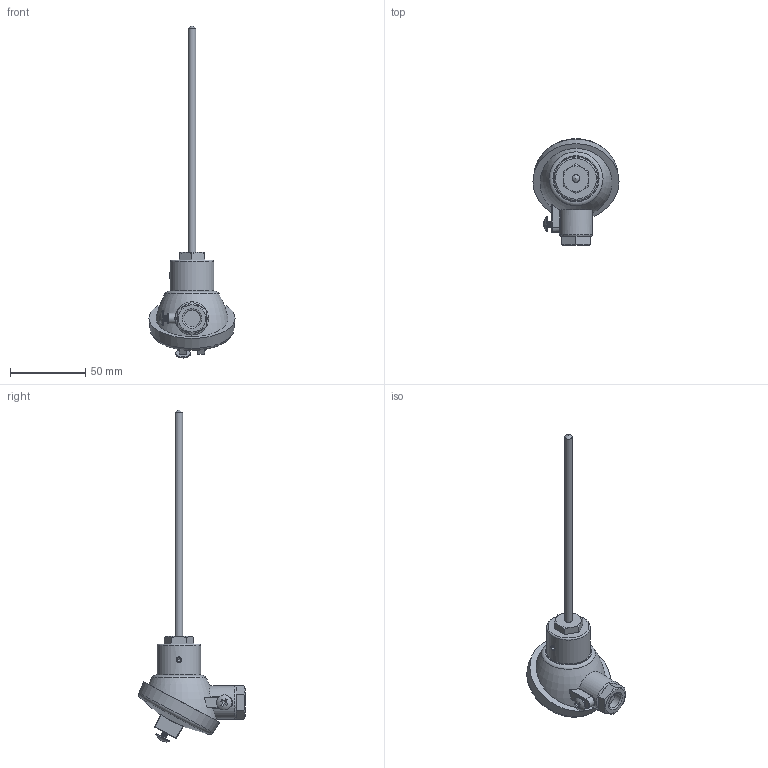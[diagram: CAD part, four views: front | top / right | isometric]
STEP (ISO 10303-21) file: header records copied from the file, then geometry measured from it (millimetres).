
FILE_DESCRIPTION (( 'STEP AP203' ), '1' );
FILE_NAME ('YIR30_4(0).STEP', '2024-12-12T01:39:18', ( '' ), ( '' ), 'SwSTEP 2.0', 'SolidWorks 2021', '' );
FILE_SCHEMA (( 'CONFIG_CONTROL_DESIGN' ));
Length unit declared in the file: millimetre
Products named in the file (1): YIR30_4(0)
Bounding box: 57 x 70.64 x 219.9 mm (x, y, z)
Volume: 80943 mm3; surface area: 16429.5 mm2
Topology: 1 solids, 2 shells, 186 faces, 445 edges, 275 vertices
Faces by surface type: plane 88, cylinder 47, bspline 19, cone 13, torus 11, sphere 8
Full cylindrical faces by diameter (mm): 3.5 x3, 3.6 x1, 3.8 x10, 5 x1, 10 x2, 11 x1, 16 x1, 16.5 x1, 22 x1, 29 x1
Entity records: 7863 total; most frequent: CARTESIAN_POINT 4280, ORIENTED_EDGE 714, DIRECTION 677, EDGE_CURVE 357, AXIS2_PLACEMENT_3D 263, VERTEX_POINT 230, EDGE_LOOP 217, FACE_OUTER_BOUND 195
